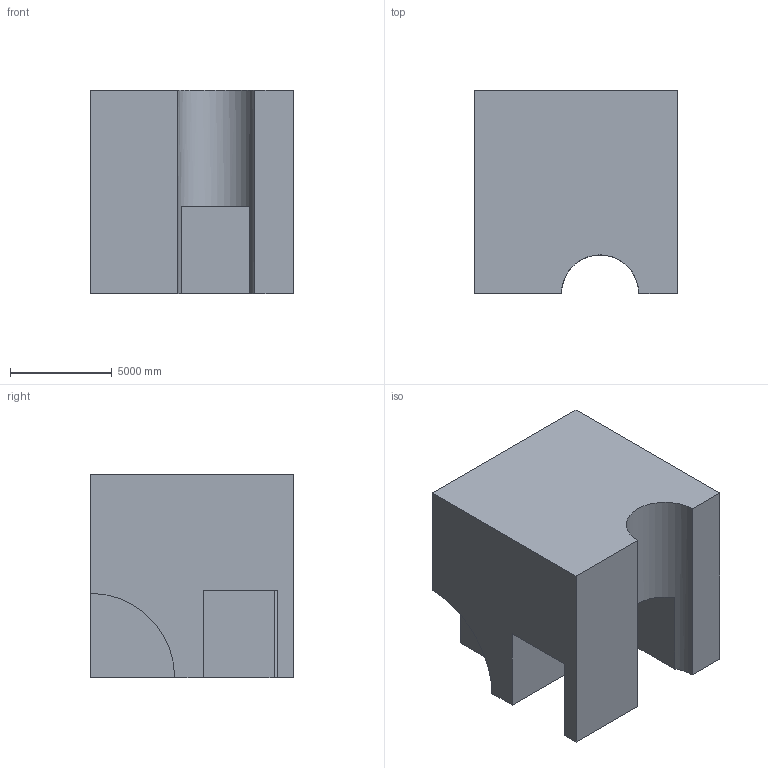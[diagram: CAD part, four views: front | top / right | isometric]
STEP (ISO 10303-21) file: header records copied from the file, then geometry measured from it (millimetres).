
FILE_DESCRIPTION (( 'STEP AP203' ), '1' );
FILE_NAME ('120.STEP', '2022-09-06T16:14:41', ( 'user' ), ( '' ), 'SwSTEP 2.0', 'SolidWorks 2021', '' );
FILE_SCHEMA (( 'CONFIG_CONTROL_DESIGN' ));
Length unit declared in the file: centimetre
Products named in the file (1): 120
Bounding box: 10000 x 10000 x 10000 mm (x, y, z)
Volume: 806688904380.8 mm3; surface area: 641247795.1 mm2
Topology: 1 solids, 1 shells, 15 faces, 39 edges, 26 vertices
Faces by surface type: plane 13, cylinder 2
Entity records: 536 total; most frequent: CARTESIAN_POINT 81, ORIENTED_EDGE 78, DIRECTION 77, EDGE_CURVE 39, VECTOR 33, LINE 33, VERTEX_POINT 26, AXIS2_PLACEMENT_3D 22
